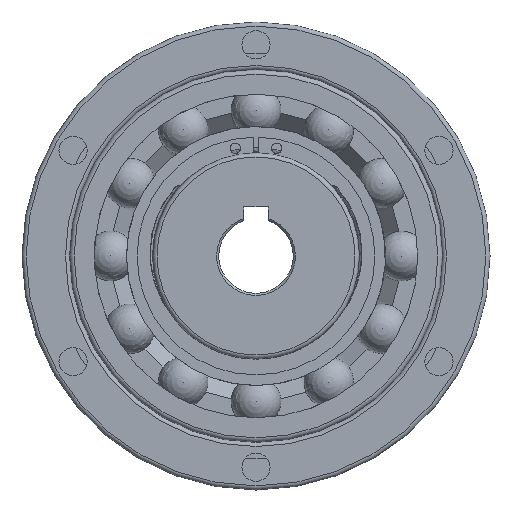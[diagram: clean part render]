
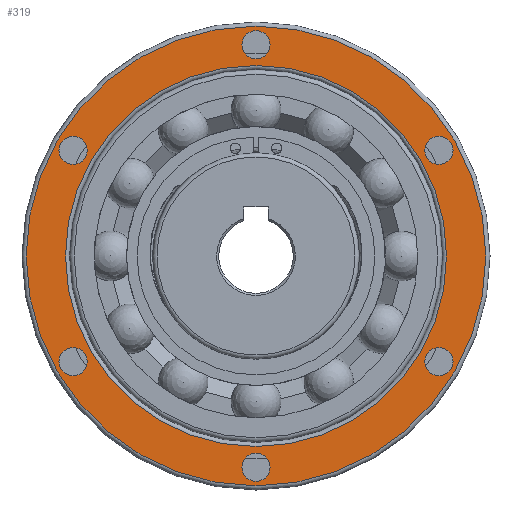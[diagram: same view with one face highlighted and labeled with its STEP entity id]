
A CAD part, left-side view. The second image highlights one B-rep face of the part: STEP entity #319.
In plain terms, the highlighted planar face has unit normal (-1, 0, 0).
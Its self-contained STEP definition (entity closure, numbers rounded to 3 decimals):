
#319 = ADVANCED_FACE( '', ( #760, #761, #762, #763, #764, #765, #766, #767 ), #768, .F. );
#760 = FACE_OUTER_BOUND( '', #1322, .T. );
#761 = FACE_BOUND( '', #1323, .T. );
#762 = FACE_BOUND( '', #1324, .T. );
#763 = FACE_BOUND( '', #1325, .T. );
#764 = FACE_BOUND( '', #1326, .T. );
#765 = FACE_BOUND( '', #1327, .T. );
#766 = FACE_BOUND( '', #1328, .T. );
#767 = FACE_BOUND( '', #1329, .T. );
#768 = PLANE( '', #1330 );
#1322 = EDGE_LOOP( '', ( #2343 ) );
#1323 = EDGE_LOOP( '', ( #2344 ) );
#1324 = EDGE_LOOP( '', ( #2345 ) );
#1325 = EDGE_LOOP( '', ( #2346 ) );
#1326 = EDGE_LOOP( '', ( #2347 ) );
#1327 = EDGE_LOOP( '', ( #2348 ) );
#1328 = EDGE_LOOP( '', ( #2349 ) );
#1329 = EDGE_LOOP( '', ( #2350 ) );
#1330 = AXIS2_PLACEMENT_3D( '', #2351, #2352, #2353 );
#2343 = ORIENTED_EDGE( '', *, *, #3256, .T. );
#2344 = ORIENTED_EDGE( '', *, *, #3134, .T. );
#2345 = ORIENTED_EDGE( '', *, *, #3394, .T. );
#2346 = ORIENTED_EDGE( '', *, *, #3051, .T. );
#2347 = ORIENTED_EDGE( '', *, *, #3264, .T. );
#2348 = ORIENTED_EDGE( '', *, *, #3395, .T. );
#2349 = ORIENTED_EDGE( '', *, *, #3396, .T. );
#2350 = ORIENTED_EDGE( '', *, *, #3251, .T. );
#2351 = CARTESIAN_POINT( '', ( 4.5, 0., 56.5 ) );
#2352 = DIRECTION( '', ( 1., 0., 0. ) );
#2353 = DIRECTION( '', ( 0., 1., 0. ) );
#3051 = EDGE_CURVE( '', #3582, #3582, #3583, .T. );
#3134 = EDGE_CURVE( '', #3729, #3729, #3730, .T. );
#3251 = EDGE_CURVE( '', #3931, #3931, #3932, .T. );
#3256 = EDGE_CURVE( '', #3939, #3939, #3940, .T. );
#3264 = EDGE_CURVE( '', #3951, #3951, #3952, .T. );
#3394 = EDGE_CURVE( '', #4145, #4145, #4146, .T. );
#3395 = EDGE_CURVE( '', #4147, #4147, #4148, .T. );
#3396 = EDGE_CURVE( '', #4149, #4149, #4150, .T. );
#3582 = VERTEX_POINT( '', #4412 );
#3583 = CIRCLE( '', #4413, 3.4 );
#3729 = VERTEX_POINT( '', #4742 );
#3730 = CIRCLE( '', #4743, 46. );
#3931 = VERTEX_POINT( '', #5308 );
#3932 = CIRCLE( '', #5309, 3.4 );
#3939 = VERTEX_POINT( '', #5316 );
#3940 = CIRCLE( '', #5317, 55.5 );
#3951 = VERTEX_POINT( '', #5331 );
#3952 = CIRCLE( '', #5332, 3.4 );
#4145 = VERTEX_POINT( '', #6067 );
#4146 = CIRCLE( '', #6068, 3.4 );
#4147 = VERTEX_POINT( '', #6069 );
#4148 = CIRCLE( '', #6070, 3.4 );
#4149 = VERTEX_POINT( '', #6071 );
#4150 = CIRCLE( '', #6072, 3.4 );
#4412 = CARTESIAN_POINT( '', ( 4.5, -44.167, -28.9 ) );
#4413 = AXIS2_PLACEMENT_3D( '', #6829, #6830, #6831 );
#4742 = CARTESIAN_POINT( '', ( 4.5, 0., -46. ) );
#4743 = AXIS2_PLACEMENT_3D( '', #6963, #6964, #6965 );
#5308 = CARTESIAN_POINT( '', ( 4.5, 0., 47.6 ) );
#5309 = AXIS2_PLACEMENT_3D( '', #7119, #7120, #7121 );
#5316 = CARTESIAN_POINT( '', ( 4.5, 0., -55.5 ) );
#5317 = AXIS2_PLACEMENT_3D( '', #7128, #7129, #7130 );
#5331 = CARTESIAN_POINT( '', ( 4.5, 0., -54.4 ) );
#5332 = AXIS2_PLACEMENT_3D( '', #7137, #7138, #7139 );
#6067 = CARTESIAN_POINT( '', ( 4.5, -44.167, 22.1 ) );
#6068 = AXIS2_PLACEMENT_3D( '', #7285, #7286, #7287 );
#6069 = CARTESIAN_POINT( '', ( 4.5, 44.167, -28.9 ) );
#6070 = AXIS2_PLACEMENT_3D( '', #7288, #7289, #7290 );
#6071 = CARTESIAN_POINT( '', ( 4.5, 44.167, 22.1 ) );
#6072 = AXIS2_PLACEMENT_3D( '', #7291, #7292, #7293 );
#6829 = CARTESIAN_POINT( '', ( 4.5, -44.167, -25.5 ) );
#6830 = DIRECTION( '', ( 1., 0., 0. ) );
#6831 = DIRECTION( '', ( 0., 0., -1. ) );
#6963 = CARTESIAN_POINT( '', ( 4.5, 0., 0. ) );
#6964 = DIRECTION( '', ( 1., 0., 0. ) );
#6965 = DIRECTION( '', ( 0., 0., -1. ) );
#7119 = CARTESIAN_POINT( '', ( 4.5, 0., 51. ) );
#7120 = DIRECTION( '', ( 1., 0., 0. ) );
#7121 = DIRECTION( '', ( 0., 0., -1. ) );
#7128 = CARTESIAN_POINT( '', ( 4.5, 0., 0. ) );
#7129 = DIRECTION( '', ( -1., 0., 0. ) );
#7130 = DIRECTION( '', ( 0., 0., -1. ) );
#7137 = CARTESIAN_POINT( '', ( 4.5, 0., -51. ) );
#7138 = DIRECTION( '', ( 1., 0., 0. ) );
#7139 = DIRECTION( '', ( 0., 0., -1. ) );
#7285 = CARTESIAN_POINT( '', ( 4.5, -44.167, 25.5 ) );
#7286 = DIRECTION( '', ( 1., 0., 0. ) );
#7287 = DIRECTION( '', ( 0., 0., -1. ) );
#7288 = CARTESIAN_POINT( '', ( 4.5, 44.167, -25.5 ) );
#7289 = DIRECTION( '', ( 1., 0., 0. ) );
#7290 = DIRECTION( '', ( 0., 0., -1. ) );
#7291 = CARTESIAN_POINT( '', ( 4.5, 44.167, 25.5 ) );
#7292 = DIRECTION( '', ( 1., 0., 0. ) );
#7293 = DIRECTION( '', ( 0., 0., -1. ) );
